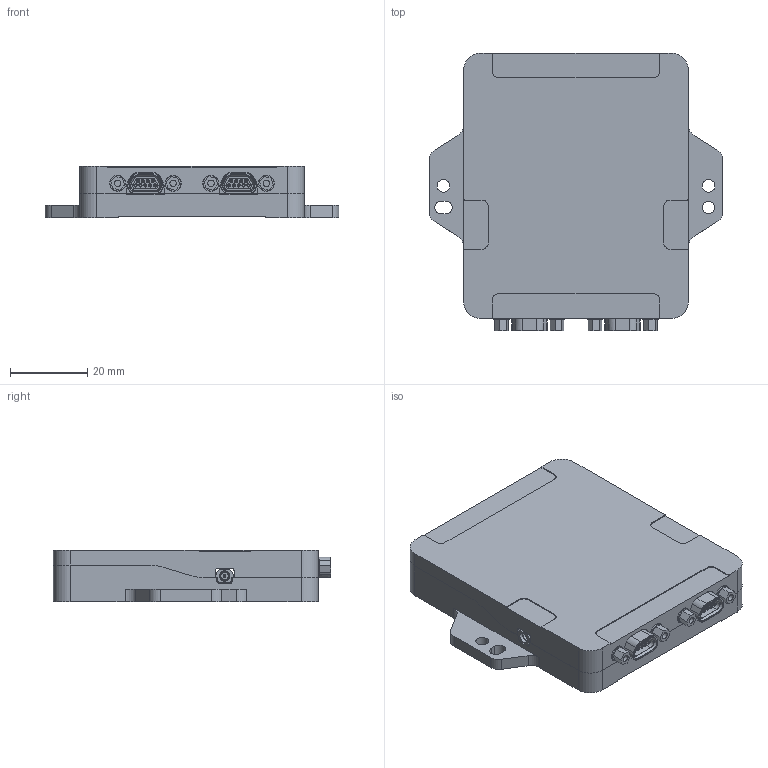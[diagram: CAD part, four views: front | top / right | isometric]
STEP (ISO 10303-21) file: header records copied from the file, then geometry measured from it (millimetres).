
FILE_DESCRIPTION(/* description */ (''),/* implementation_level */ '2;1');
FILE_NAME(/* name */ 'C:\Users\taylor_ducharme\Desktop\RTK Dongle\GQ7 ASY.stp',/* time_stamp */ '2020-05-04T17:01:22-04:00',/* author */ ('Taylor_Ducharme'),/* organization */ (''),/* preprocessor_version */ 'ST-DEVELOPER v17.2',/* originating_system */ 'Autodesk Inventor 2019',/* authorisation */ '');
FILE_SCHEMA (('AUTOMOTIVE_DESIGN { 1 0 10303 214 3 1 1 }'));
Products named in the file (6): GQ7 ASY; Case v0.7; 9104-0011; Dummy GQ7 board just conns; CSPPNH01B-SUS-M2-4; CBSTSR3-8
Assembly tree (14 placements, depth 2):
  GQ7 ASY
    Case v0.7
    9104-0011  x4
    Dummy GQ7 board just conns
    CSPPNH01B-SUS-M2-4  x4
    CBSTSR3-8  x4
Bounding box: 75.95 x 71.78 x 13.31 mm (x, y, z)
Volume: 24640.4 mm3; surface area: 36398.2 mm2
Topology: 67 solids, 77 shells, 4265 faces, 10380 edges, 6105 vertices
Faces by surface type: cylinder 1873, plane 1458, torus 500, sphere 220, bspline 120, cone 94
Full cylindrical faces by diameter (mm): 0.254 x4, 0.584 x18, 0.635 x47, 0.7 x4, 0.813 x36, 0.965 x18, 0.991 x18, 1.702 x4, 1.854 x4, 1.96 x4, 2 x4, 2.184 x4, 2.2 x4, 2.4 x2, 2.413 x4, 2.464 x4, 2.693 x4, 2.7 x2, 2.794 x12, 2.946 x4, 3 x8, 3.175 x8, 3.2 x4, 3.213 x1, 3.277 x2, 3.988 x4, 4.064 x8, 4.191 x4, 6 x4, 6.35 x2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
Entity records: 126258 total; most frequent: CARTESIAN_POINT 28437, DIRECTION 22012, ORIENTED_EDGE 19402, EDGE_CURVE 9709, AXIS2_PLACEMENT_3D 8458, VERTEX_POINT 5826, LINE 5096, VECTOR 5096
